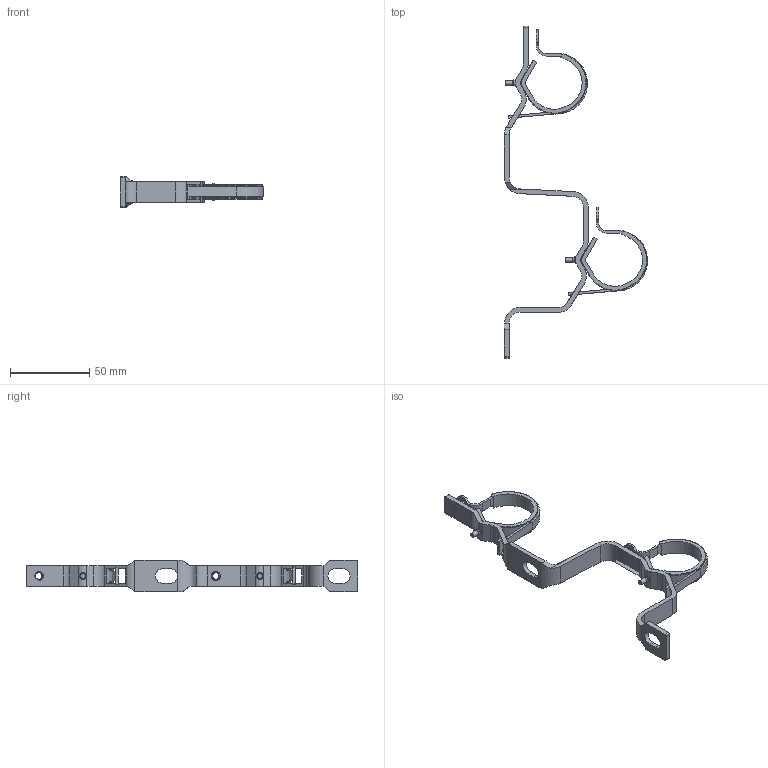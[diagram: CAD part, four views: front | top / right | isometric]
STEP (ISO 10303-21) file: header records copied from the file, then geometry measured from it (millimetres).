
FILE_DESCRIPTION(/* description */ (''),/* implementation_level */ '2;1');
FILE_NAME(/* name */ 'F:\Артём\00000\Работа удаленка\VTc.130\VTc.130.N.0600.stp',/* time_stamp */ '2022-11-03T10:20:27+03:00',/* author */ ('almis'),/* organization */ (''),/* preprocessor_version */ 'ST-DEVELOPER v18',/* originating_system */ 'Autodesk Inventor 2020',/* authorisation */ '');
FILE_SCHEMA (('AUTOMOTIVE_DESIGN { 1 0 10303 214 3 1 1 }'));
Length unit declared in the file: millimetre
Products named in the file (4): VTc.130.N.0500; VTc.130.N.0500_01_00; VTc.130.N.0500_03; VTc.130.N.0500_06
Assembly tree (5 placements, depth 2):
  VTc.130.N.0500
    VTc.130.N.0500_01_00
    VTc.130.N.0500_03  x2
    VTc.130.N.0500_06  x2
Bounding box: 90.48 x 210 x 20.2 mm (x, y, z)
Volume: 17090.4 mm3; surface area: 18781.5 mm2
Topology: 5 solids, 5 shells, 286 faces, 785 edges, 505 vertices
Faces by surface type: cylinder 116, plane 112, bspline 26, torus 24, cone 8
Full cylindrical faces by diameter (mm): 3 x2, 3.8 x2, 4.2 x8, 4.209 x3, 5.5 x2
Entity records: 9131 total; most frequent: CARTESIAN_POINT 3856, ORIENTED_EDGE 1102, DIRECTION 1064, EDGE_CURVE 551, AXIS2_PLACEMENT_3D 379, VERTEX_POINT 358, LINE 306, VECTOR 306
